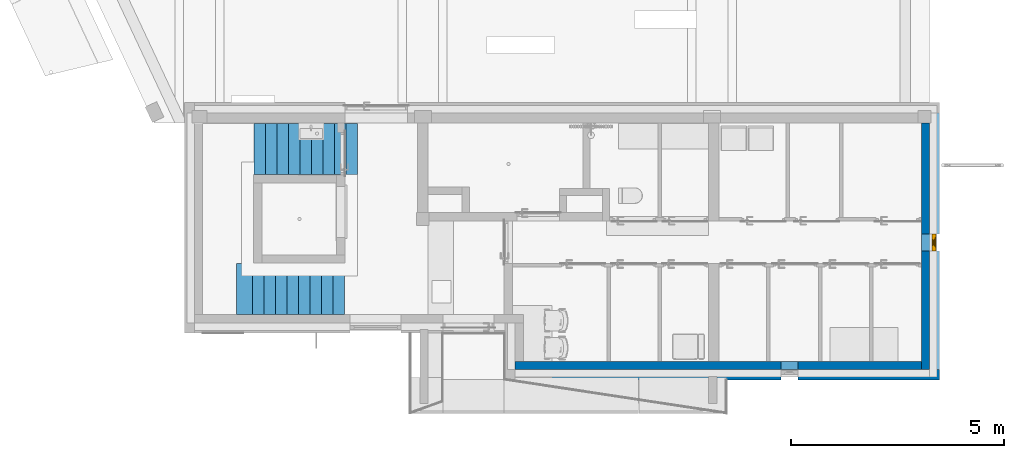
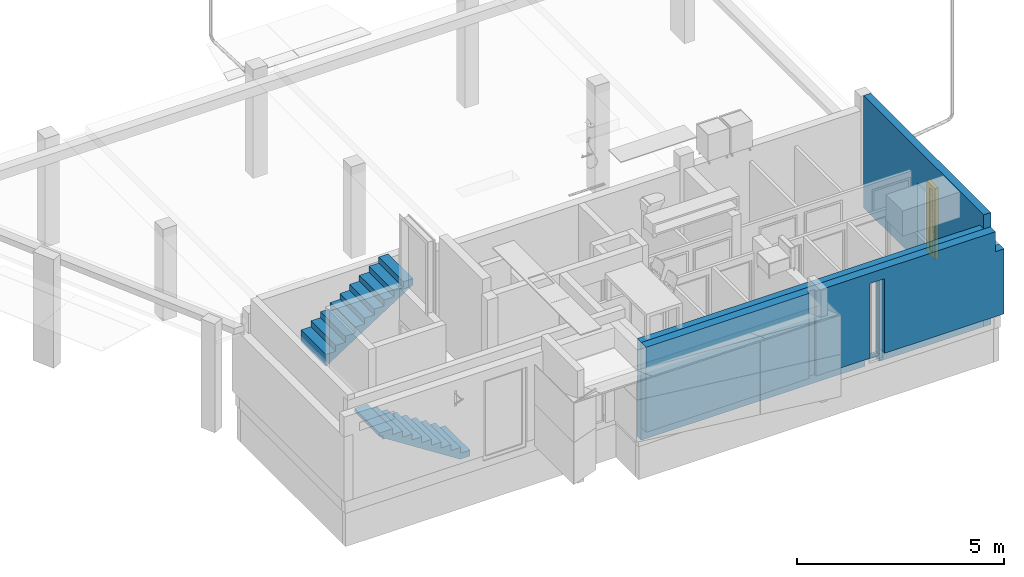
# One storey, part 7 of 55: 3 walls, 2 stair flights, 1 window, 1 opening, 1 element without a shape of its own, plus 1 element that does not belong to this part.
"""IFC2X3 building model written with IfcOpenShell, lengths in millimetres."""

from ifc_helpers import new_model, entity, si_unit, converted_unit, direction, frame, frame_2d, origin, place, context, subcontext, project, spatial, polyline, rectangle, extrude, clip, bounded_halfspace, faceted_brep, source, transform, mapped, material, material_list, layer, layer_set, layer_usage, type_object, type_shapes, element, fill, aggregate, save


model = new_model("IFC2X3")

# Units and contexts
model_context = context("Model", 3, precision=0.01, world=origin(), true_north=direction((6.123233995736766e-17, 1.0)))
plan_context = context("Plan", 3, precision=0.01, world=origin(), true_north=direction((6.123233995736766e-17, 1.0)))
body_context = subcontext(model_context, "Body", "Model", "MODEL_VIEW")
ifc_project = project(units=[si_unit("LENGTHUNIT", "METRE", prefix="MILLI"), converted_unit("PLANEANGLEUNIT", "DEGREE", entity("IfcPlaneAngleMeasure", 0.017453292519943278), si_unit("PLANEANGLEUNIT", "RADIAN"), dimensions=[0, 0, 0, 0, 0, 0, 0]), si_unit("AREAUNIT", "SQUARE_METRE")], contexts=[model_context, plan_context])

# Site, building, storey
site_placement = place(None, origin())
site = spatial("IfcSite", under=ifc_project, at=site_placement, Name="Default", CompositionType="ELEMENT")
building_placement = place(site_placement, origin())
building = spatial("IfcBuilding", under=site, at=building_placement, CompositionType="ELEMENT")
storey_placement = place(building_placement, origin())
storey = spatial("IfcBuildingStorey", under=building, at=storey_placement, Name="1K", CompositionType="ELEMENT", Elevation=0.0)

# Walls
ifc_material_1 = material(Name="_K. Väisviimistlus. Krohv. Valge")
ifc_layer_1 = layer(ifc_material_1, 5.0)
ifc_material_2 = material(Name="_K. Müüritis. Väikeplokk. Betoon-õõnesplokk")
ifc_layer_2 = layer(ifc_material_2, 190.00000000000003)
ifc_layer_3 = layer(ifc_material_1, 5.0)
ifc_layer_set_1 = layer_set([ifc_layer_1, ifc_layer_2, ifc_layer_3], Name="Basic Wall:SS-01. 190")
wall_type_1 = type_object("IfcWallType", Name="Basic Wall:SS-01. 190", PredefinedType="STANDARD", material=ifc_layer_set_1)
wall_1_placement = place(storey_placement, frame((17000.0, 6405.000000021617, -180.0), z_axis=(0.0, 0.0, 1.0), x_axis=(0.0, -1.0, 0.0)))
element("IfcWall", 1, at=wall_1_placement, inside=storey, type_object=wall_type_1, Name="Basic Wall:SS-01. 190", ObjectType="Basic Wall:SS-01. 190", context=body_context, shape_type="Brep", body=[
    faceted_brep([(0.0, -100.0, 0.0), (5605.000005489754, -100.0, 0.0), (5795.000005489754, -100.0, 0.0), (5795.000005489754, -100.0, 2885.0), (5795.000005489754, -100.0, 3305.0), (0.0, -100.0, 3305.0), (3005.0000054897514, -100.0, 2295.0), (3005.0000054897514, -100.0, 180.0), (2605.0000054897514, -100.0, 180.0), (2605.0000054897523, -100.0, 2295.0), (5795.0000054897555, 100.0, 0.0), (0.0, 100.0, 0.0), (0.0, 100.0, 380.0), (2605.0000054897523, 100.0, 380.0), (2605.0000054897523, 100.0, 180.0), (3005.0000054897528, 100.0, 180.0), (3005.0000054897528, 100.0, 380.0), (5795.0000054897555, 100.0, 380.0), (5795.0000054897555, 100.0, 3305.0), (0.0, 100.0, 3305.0), (0.0, 100.0, 2295.0), (0.0, 90.0, 2295.0), (0.0, 90.0, 380.0), (5795.000005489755, 90.0, 380.0), (5795.000005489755, 90.0, 2295.0), (5795.0000054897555, 100.0, 2295.0), (2605.0000054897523, 90.0, 2295.0), (2605.0000054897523, 90.0, 380.0), (3005.0000054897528, 90.0, 2295.0), (3005.0000054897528, 90.0, 380.0)], [[[0, 1, 2, 3, 4, 5], [6, 7, 8, 9]], [[10, 11, 12, 13, 14, 15, 16, 17]], [[2, 1, 0, 11, 10]], [[5, 4, 18, 19]], [[0, 5, 19, 20, 21, 22, 12, 11]], [[4, 3, 2, 10, 17, 23, 24, 25, 18]], [[21, 26, 27, 22]], [[22, 27, 13, 12]], [[15, 7, 6, 28, 29, 16]], [[6, 9, 26, 21, 20, 25, 24, 28]], [[8, 14, 13, 27, 26, 9]], [[7, 15, 14, 8]], [[29, 23, 17, 16]], [[28, 24, 23, 29]], [[19, 18, 25, 20]]]),
])
ifc_layer_4 = layer(ifc_material_2, 190.00000000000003)
ifc_layer_set_2 = layer_set([ifc_layer_4], Name="Basic Wall:Columbia 190mm")
wall_type_2 = type_object("IfcWallType", Name="Basic Wall:Columbia 190mm", PredefinedType="STANDARD", material=ifc_layer_set_2)
wall_2_placement = place(storey_placement, frame((16900.0, 704.9999945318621, -180.0), z_axis=(0.0, 0.0, 1.0), x_axis=(-1.0, 0.0, 0.0)))
element("IfcWall", 2, at=wall_2_placement, inside=storey, type_object=wall_type_2, Name="Basic Wall:Columbia 190mm", ObjectType="Basic Wall:Columbia 190mm", context=body_context, shape_type="Brep", body=[
    faceted_brep([(9550.0, -95.0, 2885.0), (9360.0, -95.0, 2885.0), (5005.004939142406, -95.0, 2885.0), (4755.0049391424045, -95.0, 2885.0), (0.0, -95.0, 2885.0), (0.0, -95.0, 160.0), (0.0, -95.0, 0.0), (2900.0, -95.0, 0.0), (2900.0, -95.0, 160.0), (3300.0, -95.0, 160.0), (3300.0, -95.0, 0.0), (4755.004939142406, -95.0, 0.0), (5005.004939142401, -95.0, 0.0), (9360.0, -95.0, 0.0), (9550.0, -95.0, 0.0), (3300.0, -95.0, 2580.0), (3300.0, -95.0, 180.0), (2900.0, -95.0, 180.0), (2900.0, -95.0, 2580.0), (0.0, 95.0, 2885.0), (9550.0, 95.0, 2885.0), (9550.0, 95.0, 380.0), (9550.0, 95.0, 0.0), (3300.0, 95.0, 0.0), (3300.0, 95.0, 160.0), (2900.0, 95.0, 160.0), (2900.0, 95.0, 0.0), (0.0, 95.0, 0.0), (3300.0, 95.0, 180.0), (3300.0, 95.0, 380.0), (3300.0, 95.0, 2580.0), (2900.0, 95.0, 2580.0), (2900.0, 95.0, 380.0), (2900.0, 95.0, 180.0)], [[[0, 1, 2, 3, 4, 5, 6, 7, 8, 9, 10, 11, 12, 13, 14], [15, 16, 17, 18]], [[19, 20, 21, 22, 23, 24, 25, 26, 27], [28, 29, 30, 31, 32, 33]], [[6, 27, 26, 7]], [[4, 3, 2, 1, 0, 20, 19]], [[4, 19, 27, 6, 5]], [[0, 14, 22, 21, 20]], [[28, 16, 15, 30, 29]], [[30, 15, 18, 31]], [[17, 33, 32, 31, 18]], [[16, 28, 33, 17]], [[24, 9, 8, 25]], [[25, 8, 7, 26]], [[9, 24, 23, 10]], [[22, 14, 13, 12, 11, 10, 23]]]),
])

# Wall, opening, window
ifc_layer_5 = layer(ifc_material_1, 10.0)
ifc_material_3 = material(Name="_K. Soojustus. EPS Silver")
ifc_layer_6 = layer(ifc_material_3, 230.0)
ifc_layer_set_3 = layer_set([ifc_layer_5, ifc_layer_6], Name="Basic Wall:VS-01")
ifc_layer_usage = layer_usage(ifc_layer_set_3, "AXIS2", "NEGATIVE", 120.0)
wall_type_3 = type_object("IfcWallType", Name="Basic Wall:VS-01", PredefinedType="STANDARD", material=ifc_layer_set_3)
wall_3_placement = place(storey_placement, frame((17210.0, 6645.000000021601, 200.0), z_axis=(0.0, 0.0, 1.0), x_axis=(0.0, -1.0, 0.0)))
wall_3 = element("IfcWallStandardCase", 3, at=wall_3_placement, inside=storey, type_object=wall_type_3, material=ifc_layer_usage, Name="Basic Wall:VS-01", ObjectType="Basic Wall:VS-01", context=body_context, shape_type="Clipping", body=[
    clip(clip(extrude(rectangle(XDim=6035.000000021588, YDim=240.00000000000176, at=frame_2d((3017.500000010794, 0.0), x_axis=(-1.0, 0.0))), origin(), (0.0, 0.0, 1.0), 1915.0), bounded_halfspace(frame((240.0, -85.0, 1915.0), z_axis=(1.0, 0.0, 0.0), x_axis=(0.0, 0.0, -1.0)), True, frame((240.0, -85.0, 1915.0), z_axis=(1.0, 0.0, 0.0), x_axis=(0.0, 0.0, -1.0)), polyline([(0.0, 0.0), (0.0, -25.0), (0.0, -35.0), (1915.0, -35.0), (1915.0, -25.0), (1915.0, 0.0), (0.0, 0.0)]))), bounded_halfspace(frame((240.0, -85.0, 0.0), z_axis=(0.0, 1.0, 0.0), x_axis=(0.0, 0.0, -1.0)), True, frame((240.0, -85.0, 0.0), z_axis=(0.0, 1.0, 0.0), x_axis=(0.0, 0.0, -1.0)), polyline([(0.0, 0.0), (0.0, 240.0), (-1915.0, 240.0), (-1915.0, 0.0), (0.0, 0.0)]))),
])
opening_placement = place(wall_3_placement, frame((6645.000000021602, -17210.0, -200.0), z_axis=(0.0, 0.0, 1.0), x_axis=(0.0, 1.0, 0.0)))
opening = element("IfcOpeningElement", 4, at=opening_placement, cuts=wall_3, Name="Basic Wall:VS-01", ObjectType="Opening", context=body_context, shape_type="Brep", body=[
    faceted_brep([(17350.0, 3399.999994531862, 2115.0), (16656.0, 3399.9999945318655, 2115.0), (16656.0, 3399.9999945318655, 0.0), (17240.0, 3399.9999945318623, 0.0), (17250.0, 3399.9999945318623, 0.0), (17350.0, 3399.999994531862, 0.0), (17350.0, 3799.999994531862, 2115.0), (16656.0, 3799.9999945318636, 2115.0), (17350.0, 3799.999994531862, 0.0), (17250.0, 3799.9999945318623, 0.0), (17240.0, 3799.9999945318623, 0.0), (16656.0, 3799.9999945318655, 0.0)], [[[0, 1, 2, 3, 4, 5]], [[6, 7, 1, 0]], [[8, 9, 10, 11, 7, 6]], [[5, 4, 3, 2, 11, 10, 9, 8]], [[6, 0, 5, 8]], [[7, 11, 2, 1]]]),
])
ifc_material_4 = material(Name="_K. Klaas. Pakett")
ifc_material_5 = material(Name="_K. Avatäited. Raam. PVC. RAL9005")
ifc_material_list = material_list([ifc_material_4, ifc_material_5])
window_style = type_object("IfcWindowStyle", Name="HR_Window_Generic_Rectangle_1x1:A-08.400x2115.P", ConstructionType="NOTDEFINED", OperationType="NOTDEFINED", ParameterTakesPrecedence=False, Sizeable=False, material=ifc_material_list)
shared_shape = source(origin(), body_context, "Body", "Brep", [
    faceted_brep([(108.0, -154.0, 2007.0), (292.0, -154.0, 2007.0), (292.0, -154.0, 128.0), (108.0, -154.0, 128.0), (292.0, -179.0, 2007.0), (292.0, -179.0, 128.0), (108.0, -179.0, 128.0), (108.0, -179.0, 2007.0)], [[[0, 1, 2, 3]], [[2, 1, 4, 5]], [[3, 2, 5, 6]], [[0, 3, 6, 7]], [[7, 6, 5, 4]], [[1, 0, 7, 4]]]),
    faceted_brep([(292.0, -154.0, 2007.0), (292.0, -154.0, 128.0), (292.0, -179.0, 128.0), (292.0, -179.0, 2007.0), (342.0, -134.0, 2057.0), (58.0, -134.0, 2057.0), (58.0, -194.0, 2057.0), (342.0, -194.0, 2057.0), (128.0, -154.0, 1987.0), (128.0, -134.0, 1987.0), (272.0, -134.0, 1987.0), (272.0, -154.0, 1987.0), (128.0, -179.0, 1987.0), (128.0, -194.0, 1987.0), (128.0, -194.0, 148.0), (128.0, -179.0, 148.0), (342.0, -134.0, 78.0), (342.0, -194.0, 78.0), (58.0, -194.0, 78.0), (58.0, -134.0, 78.0), (272.0, -194.0, 1987.0), (272.0, -194.0, 148.0), (128.0, -134.0, 148.0), (272.0, -134.0, 148.0), (128.0, -154.0, 148.0), (272.0, -154.0, 148.0), (108.0, -154.0, 128.0), (108.0, -179.0, 128.0), (108.0, -154.0, 2007.0), (108.0, -179.0, 2007.0), (272.0, -179.0, 1987.0), (272.0, -179.0, 148.0)], [[[0, 1, 2, 3]], [[4, 5, 6, 7]], [[8, 9, 10, 11]], [[12, 13, 14, 15]], [[16, 17, 18, 19]], [[4, 7, 17, 16]], [[13, 20, 21, 14], [7, 6, 18, 17]], [[6, 5, 19, 18]], [[5, 4, 16, 19], [10, 9, 22, 23]], [[9, 8, 24, 22]], [[25, 23, 22, 24]], [[11, 10, 23, 25]], [[1, 26, 27, 2]], [[26, 28, 29, 27]], [[28, 26, 1, 0], [8, 11, 25, 24]], [[28, 0, 3, 29]], [[20, 30, 31, 21]], [[21, 31, 15, 14]], [[29, 3, 2, 27], [30, 12, 15, 31]], [[13, 12, 30, 20]]], outer=[[True], [True], [True], [True], [True], [True], [False, True], [True], [True, False], [True], [True], [True], [True], [True], [True, False], [True], [True], [True], [True, False], [True]]),
    faceted_brep([(342.0, -134.0, 78.0), (58.0, -134.0, 78.0), (58.0, -194.0, 78.0), (342.0, -194.0, 78.0), (58.0, -134.0, 2057.0), (58.0, -194.0, 2057.0), (342.0, -134.0, 2057.0), (342.0, -194.0, 2057.0), (88.0, -100.0, 108.0), (88.0, -100.0, 2027.0), (88.0, -134.0, 2027.0), (88.0, -134.0, 108.0), (312.0, -100.0, 108.0), (312.0, -134.0, 108.0), (312.0, -100.0, 2027.0), (312.0, -134.0, 2027.0), (0.0, -100.0, 2115.0), (400.0, -100.0, 2115.0), (400.0, -100.0, 30.0), (0.0, -100.0, 30.0), (400.0, -194.0, 2115.0), (0.0, -194.0, 2115.0), (0.0, -194.0, 30.0), (400.0, -194.0, 30.0), (0.0, -110.0, 30.0), (0.0, -110.0, 0.0), (0.0, -184.0, 0.0), (0.0, -184.0, 30.0), (400.0, -184.0, 30.0), (400.0, -184.0, 0.0), (400.0, -110.0, 0.0), (400.0, -110.0, 30.0)], [[[0, 1, 2, 3]], [[1, 4, 5, 2]], [[6, 0, 3, 7]], [[8, 9, 10, 11]], [[12, 8, 11, 13]], [[14, 12, 13, 15]], [[16, 17, 18, 19], [9, 8, 12, 14]], [[20, 21, 22, 23], [7, 3, 2, 5]], [[21, 16, 19, 24, 25, 26, 27, 22]], [[27, 28, 23, 22]], [[17, 20, 23, 28, 29, 30, 31, 18]], [[31, 24, 19, 18]], [[24, 31, 30, 25]], [[25, 30, 29, 26]], [[28, 27, 26, 29]], [[4, 6, 7, 5]], [[9, 14, 15, 10]], [[21, 20, 17, 16]], [[10, 15, 13, 11], [0, 6, 4, 1]]], outer=[[True], [True], [True], [True], [True], [True], [True, False], [True, False], [True], [True], [True], [True], [True], [True], [True], [True], [True], [True], [False, True]]),
])
type_shapes(window_style, [shared_shape])
window_placement = place(opening_placement, frame((17350.0, 3799.9999945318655, 0.0), z_axis=(0.0, 0.0, 1.0), x_axis=(0.0, -1.0, 0.0)))
window = element("IfcWindow", 5, at=window_placement, inside=storey, type_object=window_style, material=ifc_material_list, Name="HR_Window_Generic_Rectangle_1x1:A-08.400x2115.P", ObjectType="HR_Window_Generic_Rectangle_1x1:A-08.400x2115.P", OverallHeight=2180.000000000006, OverallWidth=400.0000000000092, context=body_context, shape_type="MappedRepresentation", body=[
    mapped(shared_shape, transform((0.0, 0.0, 0.0), scale=1.0)),
])
fill(opening, window)

# Wall
wall_4_placement = place(storey_placement, frame((7350.0, 490.0, 200.0)))
element("IfcWall", 6, at=wall_4_placement, inside=storey, type_object=wall_type_3, Name="Basic Wall:VS-01", ObjectType="Basic Wall:VS-01", context=body_context, shape_type="Brep", body=[
    faceted_brep([(0.0, -120.0, 2505.0), (0.0, -120.0, 0.0), (4550.0, -120.0, 0.0), (4550.0, -120.0, 2505.0), (0.0, 120.0, 2505.0), (4799.993534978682, 120.0, 2505.0), (9550.0, 120.0, 2505.0), (9740.0, 120.0, 2505.0), (9740.0, 120.0, 1915.0), (9980.0, 120.0, 1915.0), (9980.0, 120.0, 0.0), (9740.0, 120.0, 0.0), (6650.0, 120.0, 0.0), (6650.0, 120.0, 2200.0), (6250.0, 120.0, 2200.0), (6250.0, 120.0, 0.0), (0.0, 120.0, 0.0), (6250.0, -120.0, 0.0), (4740.0, -120.0, 0.0), (4740.0, -40.00000546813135, 0.0), (4550.0, -40.00000546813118, 0.0), (4550.0, -40.00000546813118, 2505.0), (4740.0, -40.00000546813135, 2505.0), (4740.0, -120.0, 2505.0), (4799.993534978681, -120.0, 2505.0), (9740.0, -120.0, 2505.0), (9740.0, -120.0, 1915.0), (9980.0, -120.0, 1915.0), (9980.0, -120.0, 0.0), (6250.0, -120.0, 2200.0), (6650.0, -120.0, 2200.0), (6650.0, -120.0, 0.0)], [[[0, 1, 2, 3]], [[4, 5, 6, 7, 8, 9, 10, 11, 12, 13, 14, 15, 16]], [[1, 16, 15, 17, 18, 19, 20, 2]], [[7, 6, 5, 4, 0, 3, 21, 22, 23, 24, 25]], [[1, 0, 4, 16]], [[26, 27, 9, 8]], [[27, 28, 10, 9]], [[26, 8, 7, 25]], [[29, 17, 15, 14]], [[29, 14, 13, 30]], [[31, 30, 13, 12]], [[20, 21, 3, 2]], [[22, 19, 18, 23]], [[21, 20, 19, 22]], [[10, 28, 31, 12, 11]], [[27, 26, 25, 24, 23, 18, 17, 29, 30, 31, 28]]]),
])

# Stair, stair flights
type_product = type_object("IfcTypeProduct", Name="Precast Stair:Default. Monteeritav raudbetoontrepp")
stair_placement = place(storey_placement, origin())
stair = element("IfcStair", 7, at=stair_placement, inside=storey, type_object=type_product, Name="Precast Stair:Stair", ObjectType="Precast Stair:Default. Monteeritav raudbetoontrepp", ShapeType="HALF_TURN_STAIR")
ifc_material_6 = material(Name="Temp. Betoon. Armeeritud. Kohtvalu")
stair_flight_type = type_object("IfcStairFlightType", Name="Monolithic Run:Default Run. Raudbetoon", PredefinedType="STRAIGHT")
stair_flight_1_placement = place(stair_placement, frame((802.4937255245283, 1905.0014695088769, 0.0)))
stair_flight_1 = element("IfcStairFlight", 8, at=stair_flight_1_placement, type_object=stair_flight_type, material=ifc_material_6, Name="Precast Stair:Stair:496210 Run 1", ObjectType="Monolithic Run:Default Run. Raudbetoon", NumberOfRiser=9, NumberOfTreads=9, RiserHeight=0.5695902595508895, TreadLength=0.8858267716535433, context=body_context, shape_type="Brep", body=[
    faceted_brep([(2260.0, 0.0, 153.61111111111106), (2530.0, 0.0, 153.61111111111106), (2530.0, 1200.0, 153.61111111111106), (2260.0, 1200.0, 153.61111111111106), (2260.0, 0.0, -20.0), (2530.0, 0.0, -20.0), (2530.0, 1200.0, -20.0), (2260.0, 1200.0, -20.0), (1990.0, 0.0, 327.2222222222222), (2260.0, 0.0, 327.2222222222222), (2260.0, 1200.0, 327.2222222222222), (1990.0, 1200.0, 327.2222222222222), (1990.0, 0.0, 148.88904646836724), (2252.6562450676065, 0.0, -20.0), (2252.6562450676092, 1200.0, -20.0), (1990.0, 1200.0, 148.88904646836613), (1720.0, 0.0, 500.8333333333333), (1990.0, 0.0, 500.8333333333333), (1990.0, 1200.0, 500.8333333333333), (1720.0, 1200.0, 500.8333333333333), (1720.0, 0.0, 322.50015757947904), (1720.0, 1200.0, 322.50015757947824), (1450.0, 0.0, 674.4444444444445), (1720.0, 0.0, 674.4444444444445), (1720.0, 1200.0, 674.4444444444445), (1450.0, 1200.0, 674.4444444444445), (1450.0, 0.0, 496.1112686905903), (1450.0, 1200.0, 496.1112686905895), (1180.0, 0.0, 848.0555555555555), (1450.0, 0.0, 848.0555555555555), (1450.0, 1200.0, 848.0555555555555), (1180.0, 1200.0, 848.0555555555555), (1180.0, 0.0, 669.722379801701), (1180.0, 1200.0, 669.7223798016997), (910.0, 0.0, 1021.6666666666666), (1180.0, 0.0, 1021.6666666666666), (1180.0, 1200.0, 1021.6666666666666), (910.0, 1200.0, 1021.6666666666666), (910.0, 0.0, 843.3334909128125), (910.0, 1200.0, 843.3334909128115), (640.0, 0.0, 1195.2777777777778), (910.0, 0.0, 1195.2777777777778), (910.0, 1200.0, 1195.2777777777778), (640.0, 1200.0, 1195.2777777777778), (640.0, 0.0, 1016.9446020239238), (640.0, 1200.0, 1016.9446020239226), (370.0, 0.0, 1368.888888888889), (640.0, 0.0, 1368.888888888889), (640.0, 1200.0, 1368.888888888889), (370.0, 1200.0, 1368.888888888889), (370.0, 0.0, 1190.5557131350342), (370.0, 1200.0, 1190.5557131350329), (164.80024506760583, 0.0, 1322.4999999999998), (164.8002450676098, 1200.0, 1322.499999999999), (100.0, 0.0, 1322.4999999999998), (100.0, 1200.0, 1322.4999999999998), (0.0, 1200.0, 1442.5), (100.0, 1200.0, 1442.5), (100.0, 0.0, 1442.5), (0.0, 0.0, 1442.5), (0.0, 0.0, 1542.5), (0.0, 1200.0, 1542.5), (370.0, 0.0, 1542.5), (370.0, 1200.0, 1542.5)], [[[0, 1, 2, 3]], [[1, 0, 4, 5]], [[2, 1, 5, 6]], [[3, 2, 6, 7]], [[8, 9, 10, 11]], [[4, 0, 9, 8, 12, 13]], [[0, 3, 10, 9]], [[3, 7, 14, 15, 11, 10]], [[16, 17, 18, 19]], [[17, 16, 20, 12, 8]], [[8, 11, 18, 17]], [[19, 18, 11, 15, 21]], [[22, 23, 24, 25]], [[23, 22, 26, 20, 16]], [[16, 19, 24, 23]], [[25, 24, 19, 21, 27]], [[28, 29, 30, 31]], [[29, 28, 32, 26, 22]], [[22, 25, 30, 29]], [[31, 30, 25, 27, 33]], [[34, 35, 36, 37]], [[35, 34, 38, 32, 28]], [[28, 31, 36, 35]], [[37, 36, 31, 33, 39]], [[40, 41, 42, 43]], [[41, 40, 44, 38, 34]], [[34, 37, 42, 41]], [[43, 42, 37, 39, 45]], [[46, 47, 48, 49]], [[47, 46, 50, 44, 40]], [[40, 43, 48, 47]], [[49, 48, 43, 45, 51]], [[5, 4, 13, 14, 7, 6]], [[52, 53, 51, 45, 39, 33, 27, 21, 15, 14, 13, 12, 20, 26, 32, 38, 44, 50]], [[53, 52, 54, 55]], [[56, 57, 58, 59]], [[56, 59, 60, 61]], [[62, 63, 61, 60]], [[46, 62, 60, 59, 58, 54, 52, 50]], [[46, 49, 63, 62]], [[61, 63, 49, 51, 53, 55, 57, 56]], [[55, 54, 58, 57]]]),
])
stair_flight_2_placement = place(stair_placement, frame((1213.7438214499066, 5197.496907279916, 0.0)))
stair_flight_2 = element("IfcStairFlight", 9, at=stair_flight_2_placement, type_object=stair_flight_type, material=ifc_material_6, Name="Precast Stair:Stair:496210 Run 2", ObjectType="Monolithic Run:Default Run. Raudbetoon", NumberOfRiser=10, NumberOfTreads=9, RiserHeight=0.5695902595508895, TreadLength=0.8858267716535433, context=body_context, shape_type="Brep", body=[
    faceted_brep([(270.0, 1200.0, 1716.111111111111), (0.0, 1200.0, 1716.111111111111), (0.0, 0.0, 1716.111111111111), (270.0, 0.0, 1716.111111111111), (270.0, 1200.0, 1537.7779353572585), (0.0, 1200.0, 1364.1668242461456), (0.0, 0.0, 1364.1668242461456), (270.0, 0.0, 1537.777935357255), (540.0, 1200.0, 1889.7222222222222), (270.0, 1200.0, 1889.7222222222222), (270.0, 0.0, 1889.7222222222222), (540.0, 0.0, 1889.7222222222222), (540.0, 1200.0, 1711.3890464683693), (540.0, 0.0, 1711.3890464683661), (810.0, 1200.0, 2063.333333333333), (540.0, 1200.0, 2063.333333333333), (540.0, 0.0, 2063.333333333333), (810.0, 0.0, 2063.333333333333), (810.0, 1200.0, 1885.0001575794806), (810.0, 0.0, 1885.0001575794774), (1080.0, 1200.0, 2236.9444444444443), (810.0, 1200.0, 2236.9444444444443), (810.0, 0.0, 2236.9444444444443), (1080.0, 0.0, 2236.9444444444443), (1080.0, 1200.0, 2058.6112686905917), (1080.0, 0.0, 2058.6112686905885), (1350.0, 1200.0, 2410.5555555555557), (1080.0, 1200.0, 2410.5555555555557), (1080.0, 0.0, 2410.5555555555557), (1350.0, 0.0, 2410.5555555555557), (1350.0, 1200.0, 2232.2223798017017), (1350.0, 0.0, 2232.2223798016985), (1620.0, 1200.0, 2584.1666666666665), (1350.0, 1200.0, 2584.1666666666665), (1350.0, 0.0, 2584.1666666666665), (1620.0, 0.0, 2584.1666666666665), (1620.0, 1200.0, 2405.833490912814), (1620.0, 0.0, 2405.8334909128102), (1890.0, 1200.0, 2757.777777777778), (1620.0, 1200.0, 2757.777777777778), (1620.0, 0.0, 2757.777777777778), (1890.0, 0.0, 2757.777777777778), (1890.0, 1200.0, 2579.444602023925), (1890.0, 0.0, 2579.444602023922), (2160.0, 1200.0, 2931.388888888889), (1890.0, 1200.0, 2931.388888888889), (1890.0, 0.0, 2931.388888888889), (2160.0, 0.0, 2931.388888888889), (2160.0, 1200.0, 2753.055713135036), (2160.0, 0.0, 2753.055713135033), (2430.0, 1200.0, 2926.6668242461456), (2430.0, 0.0, 2926.666824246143), (2430.0, 1200.0, 3105.0), (2160.0, 1200.0, 3105.0), (2160.0, 0.0, 3105.0), (2430.0, 0.0, 3105.0)], [[[0, 1, 2, 3]], [[1, 0, 4, 5]], [[2, 1, 5, 6]], [[3, 2, 6, 7]], [[8, 9, 10, 11]], [[9, 8, 12, 4, 0]], [[10, 9, 0, 3]], [[11, 10, 3, 7, 13]], [[14, 15, 16, 17]], [[15, 14, 18, 12, 8]], [[16, 15, 8, 11]], [[17, 16, 11, 13, 19]], [[20, 21, 22, 23]], [[21, 20, 24, 18, 14]], [[22, 21, 14, 17]], [[23, 22, 17, 19, 25]], [[26, 27, 28, 29]], [[27, 26, 30, 24, 20]], [[28, 27, 20, 23]], [[29, 28, 23, 25, 31]], [[32, 33, 34, 35]], [[33, 32, 36, 30, 26]], [[34, 33, 26, 29]], [[35, 34, 29, 31, 37]], [[38, 39, 40, 41]], [[39, 38, 42, 36, 32]], [[40, 39, 32, 35]], [[41, 40, 35, 37, 43]], [[44, 45, 46, 47]], [[45, 44, 48, 42, 38]], [[46, 45, 38, 41]], [[47, 46, 41, 43, 49]], [[5, 4, 12, 18, 24, 30, 36, 42, 48, 50, 51, 49, 43, 37, 31, 25, 19, 13, 7, 6]], [[52, 53, 54, 55]], [[53, 52, 50, 48, 44]], [[54, 53, 44, 47]], [[55, 54, 47, 49, 51]], [[52, 55, 51, 50]]]),
])
aggregate(stair, [stair_flight_1, stair_flight_2])

save(model, "model.ifc")
